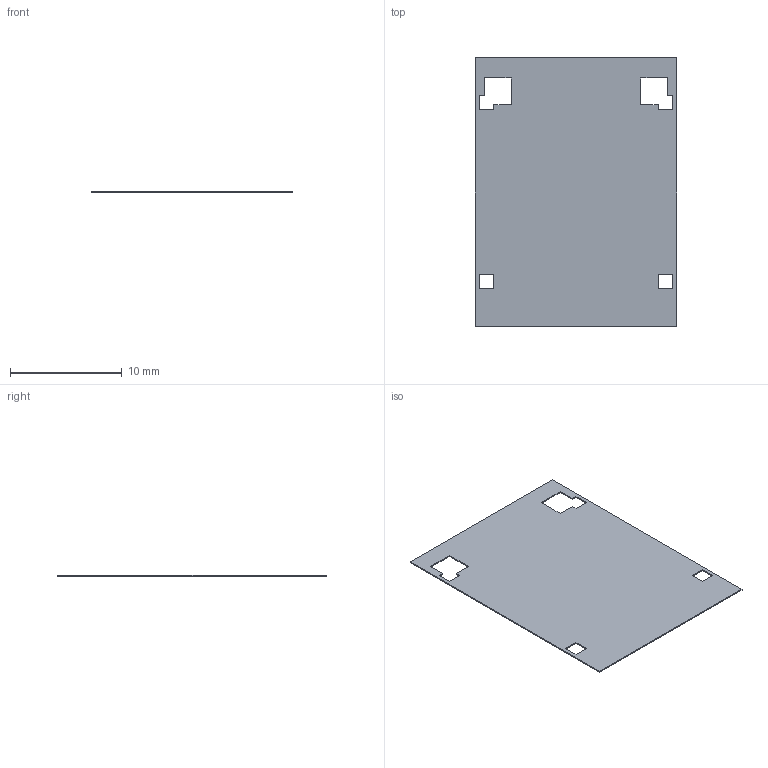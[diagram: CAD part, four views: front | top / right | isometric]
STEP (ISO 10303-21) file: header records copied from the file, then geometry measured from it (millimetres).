
FILE_DESCRIPTION(('Open CASCADE Model'),'2;1');
FILE_NAME('Open CASCADE Shape Model','2026-09-13T17:41:39',('Author'),( 'Open CASCADE'),'Open CASCADE STEP processor 7.8','Open CASCADE 7.8' ,'Unknown');
FILE_SCHEMA(('AUTOMOTIVE_DESIGN { 1 0 10303 214 1 1 1 1 }'));
Length unit declared in the file: millimetre
Products named in the file (1): Open CASCADE STEP translator 7.8 4
Bounding box: 18 x 24 x 0.1 mm (x, y, z)
Volume: 41.5 mm3; surface area: 841.7 mm2
Topology: 1 solids, 1 shells, 30 faces, 84 edges, 56 vertices
Faces by surface type: plane 30
Entity records: 2066 total; most frequent: CARTESIAN_POINT 339, DIRECTION 314, LINE 252, VECTOR 252, ORIENTED_EDGE 168, PCURVE 168, DEFINITIONAL_REPRESENTATION 168, EDGE_CURVE 84
